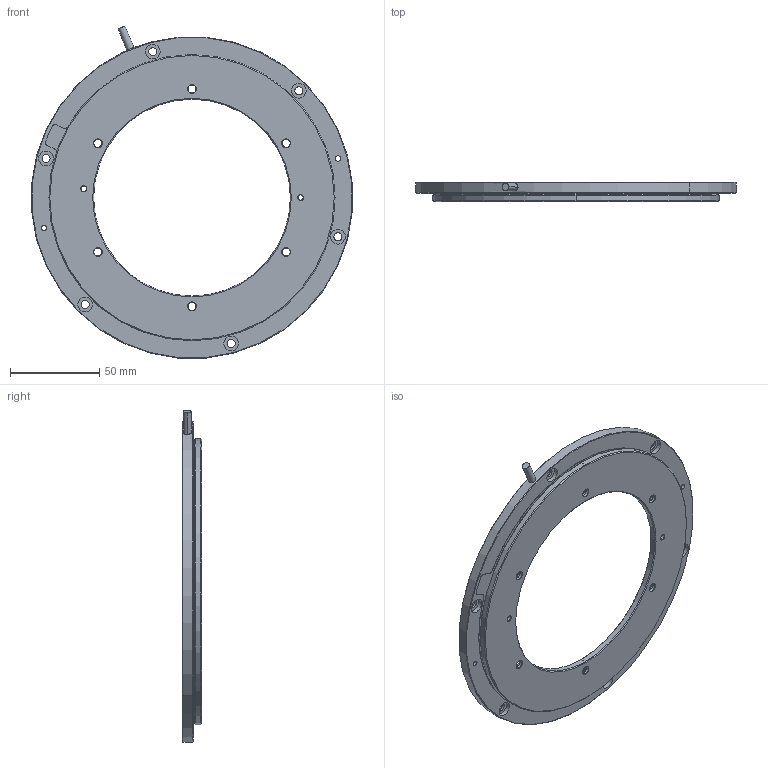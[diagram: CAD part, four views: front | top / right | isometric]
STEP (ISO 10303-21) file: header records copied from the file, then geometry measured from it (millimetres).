
FILE_DESCRIPTION (( 'STEP AP214' ), '1' );
FILE_NAME ('GMI-ANG-180-K0x-ST_rev01.STEP', '2023-11-08T15:05:27', ( '' ), ( '' ), 'SwSTEP 2.0', 'SolidWorks 2021', '' );
FILE_SCHEMA (( 'AUTOMOTIVE_DESIGN' ));
Length unit declared in the file: millimetre
Products named in the file (1): GMI-ANG-180-K0x-ST_rev01
Bounding box: 179.31 x 10.8 x 185.62 mm (x, y, z)
Volume: 115125.8 mm3; surface area: 83641.5 mm2
Topology: 6 solids, 6 shells, 240 faces, 544 edges, 341 vertices
Faces by surface type: cylinder 126, cone 62, plane 52
Entity records: 9653 total; most frequent: DIRECTION 1336, CARTESIAN_POINT 1184, ORIENTED_EDGE 1088, AXIS2_PLACEMENT_3D 553, EDGE_CURVE 544, VERTEX_POINT 341, CIRCLE 312, EDGE_LOOP 305
